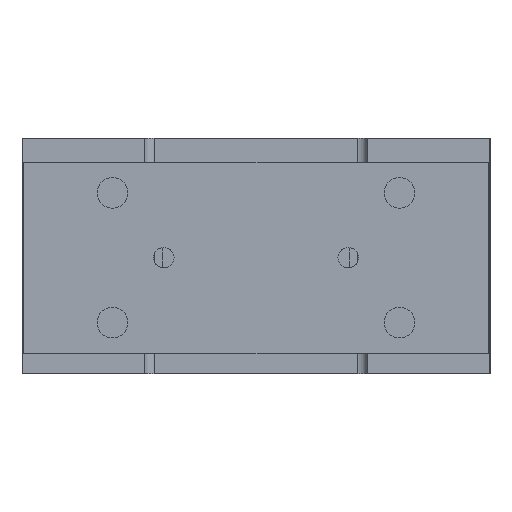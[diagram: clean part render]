
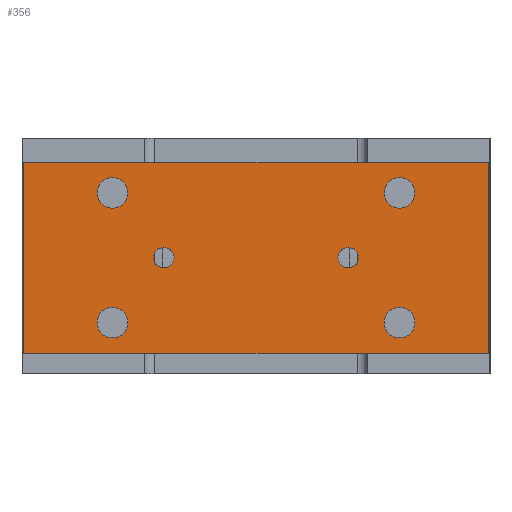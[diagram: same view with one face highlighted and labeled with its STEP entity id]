
A CAD part, left-side view. The second image highlights one B-rep face of the part: STEP entity #356.
In plain terms, the highlighted planar face has unit normal (-1, 0, 0).
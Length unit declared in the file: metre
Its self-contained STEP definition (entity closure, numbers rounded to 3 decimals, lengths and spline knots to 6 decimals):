
#356 = ADVANCED_FACE( '', ( #909, #910, #911, #912, #913, #914, #915 ), #916, .T. );
#909 = FACE_BOUND( '', #1765, .T. );
#910 = FACE_BOUND( '', #1766, .T. );
#911 = FACE_BOUND( '', #1767, .T. );
#912 = FACE_BOUND( '', #1768, .T. );
#913 = FACE_BOUND( '', #1769, .T. );
#914 = FACE_BOUND( '', #1770, .T. );
#915 = FACE_OUTER_BOUND( '', #1771, .T. );
#916 = PLANE( '', #1772 );
#1765 = EDGE_LOOP( '', ( #2773 ) );
#1766 = EDGE_LOOP( '', ( #2774 ) );
#1767 = EDGE_LOOP( '', ( #2775 ) );
#1768 = EDGE_LOOP( '', ( #2776 ) );
#1769 = EDGE_LOOP( '', ( #2777 ) );
#1770 = EDGE_LOOP( '', ( #2778 ) );
#1771 = EDGE_LOOP( '', ( #2779, #2780, #2781, #2782 ) );
#1772 = AXIS2_PLACEMENT_3D( '', #2783, #2784, #2785 );
#2773 = ORIENTED_EDGE( '', *, *, #4235, .F. );
#2774 = ORIENTED_EDGE( '', *, *, #4236, .F. );
#2775 = ORIENTED_EDGE( '', *, *, #4232, .F. );
#2776 = ORIENTED_EDGE( '', *, *, #4237, .F. );
#2777 = ORIENTED_EDGE( '', *, *, #4238, .F. );
#2778 = ORIENTED_EDGE( '', *, *, #4239, .T. );
#2779 = ORIENTED_EDGE( '', *, *, #4240, .T. );
#2780 = ORIENTED_EDGE( '', *, *, #4241, .T. );
#2781 = ORIENTED_EDGE( '', *, *, #4052, .T. );
#2782 = ORIENTED_EDGE( '', *, *, #4242, .T. );
#2783 = CARTESIAN_POINT( '', ( -0.1025, -0.068, -0.007 ) );
#2784 = DIRECTION( '', ( -1., 0., 0. ) );
#2785 = DIRECTION( '', ( 0., 0., 1. ) );
#4052 = EDGE_CURVE( '', #4650, #4648, #4651, .T. );
#4232 = EDGE_CURVE( '', #4954, #4954, #4955, .T. );
#4235 = EDGE_CURVE( '', #4959, #4959, #4960, .T. );
#4236 = EDGE_CURVE( '', #4961, #4961, #4962, .T. );
#4237 = EDGE_CURVE( '', #4963, #4963, #4964, .T. );
#4238 = EDGE_CURVE( '', #4965, #4965, #4966, .T. );
#4239 = EDGE_CURVE( '', #4967, #4967, #4968, .T. );
#4240 = EDGE_CURVE( '', #4969, #4970, #4971, .T. );
#4241 = EDGE_CURVE( '', #4970, #4650, #4972, .T. );
#4242 = EDGE_CURVE( '', #4648, #4969, #4973, .T. );
#4648 = VERTEX_POINT( '', #5526 );
#4650 = VERTEX_POINT( '', #5529 );
#4651 = LINE( '', #5530, #5531 );
#4954 = VERTEX_POINT( '', #5968 );
#4955 = CIRCLE( '', #5969, 0.0045 );
#4959 = VERTEX_POINT( '', #5973 );
#4960 = CIRCLE( '', #5974, 0.0045 );
#4961 = VERTEX_POINT( '', #5975 );
#4962 = CIRCLE( '', #5976, 0.0045 );
#4963 = VERTEX_POINT( '', #5977 );
#4964 = CIRCLE( '', #5978, 0.0045 );
#4965 = VERTEX_POINT( '', #5979 );
#4966 = CIRCLE( '', #5980, 0.003 );
#4967 = VERTEX_POINT( '', #5981 );
#4968 = CIRCLE( '', #5982, 0.003 );
#4969 = VERTEX_POINT( '', #5983 );
#4970 = VERTEX_POINT( '', #5984 );
#4971 = LINE( '', #5985, #5986 );
#4972 = LINE( '', #5987, #5988 );
#4973 = LINE( '', #5989, #5990 );
#5526 = CARTESIAN_POINT( '', ( -0.1025, 0.068, -0.063 ) );
#5529 = CARTESIAN_POINT( '', ( -0.1025, 0.068, -0.007 ) );
#5530 = CARTESIAN_POINT( '', ( -0.1025, 0.068, -0.007 ) );
#5531 = VECTOR( '', #6853, 1. );
#5968 = CARTESIAN_POINT( '', ( -0.1025, -0.0465, -0.016 ) );
#5969 = AXIS2_PLACEMENT_3D( '', #7102, #7103, #7104 );
#5973 = CARTESIAN_POINT( '', ( -0.1025, -0.0465, -0.054 ) );
#5974 = AXIS2_PLACEMENT_3D( '', #7108, #7109, #7110 );
#5975 = CARTESIAN_POINT( '', ( -0.1025, 0.0375, -0.054 ) );
#5976 = AXIS2_PLACEMENT_3D( '', #7111, #7112, #7113 );
#5977 = CARTESIAN_POINT( '', ( -0.1025, 0.0375, -0.016 ) );
#5978 = AXIS2_PLACEMENT_3D( '', #7114, #7115, #7116 );
#5979 = CARTESIAN_POINT( '', ( -0.1025, -0.024, -0.035 ) );
#5980 = AXIS2_PLACEMENT_3D( '', #7117, #7118, #7119 );
#5981 = CARTESIAN_POINT( '', ( -0.1025, 0.024, -0.035 ) );
#5982 = AXIS2_PLACEMENT_3D( '', #7120, #7121, #7122 );
#5983 = CARTESIAN_POINT( '', ( -0.1025, -0.068, -0.063 ) );
#5984 = CARTESIAN_POINT( '', ( -0.1025, -0.068, -0.007 ) );
#5985 = CARTESIAN_POINT( '', ( -0.1025, -0.068, -0.063 ) );
#5986 = VECTOR( '', #7123, 1. );
#5987 = CARTESIAN_POINT( '', ( -0.1025, -0.068, -0.007 ) );
#5988 = VECTOR( '', #7124, 1. );
#5989 = CARTESIAN_POINT( '', ( -0.1025, 0.068, -0.063 ) );
#5990 = VECTOR( '', #7125, 1. );
#6853 = DIRECTION( '', ( 0., 0., -1. ) );
#7102 = CARTESIAN_POINT( '', ( -0.1025, -0.042, -0.016 ) );
#7103 = DIRECTION( '', ( -1., 0., 0. ) );
#7104 = DIRECTION( '', ( 0., -1., 0. ) );
#7108 = CARTESIAN_POINT( '', ( -0.1025, -0.042, -0.054 ) );
#7109 = DIRECTION( '', ( -1., 0., 0. ) );
#7110 = DIRECTION( '', ( 0., -1., 0. ) );
#7111 = CARTESIAN_POINT( '', ( -0.1025, 0.042, -0.054 ) );
#7112 = DIRECTION( '', ( -1., 0., 0. ) );
#7113 = DIRECTION( '', ( 0., -1., 0. ) );
#7114 = CARTESIAN_POINT( '', ( -0.1025, 0.042, -0.016 ) );
#7115 = DIRECTION( '', ( -1., 0., 0. ) );
#7116 = DIRECTION( '', ( 0., -1., 0. ) );
#7117 = CARTESIAN_POINT( '', ( -0.1025, -0.027, -0.035 ) );
#7118 = DIRECTION( '', ( -1., 0., 0. ) );
#7119 = DIRECTION( '', ( 0., 1., 0. ) );
#7120 = CARTESIAN_POINT( '', ( -0.1025, 0.027, -0.035 ) );
#7121 = DIRECTION( '', ( 1., 0., 0. ) );
#7122 = DIRECTION( '', ( 0., -1., 0. ) );
#7123 = DIRECTION( '', ( 0., 0., 1. ) );
#7124 = DIRECTION( '', ( 0., 1., 0. ) );
#7125 = DIRECTION( '', ( 0., -1., 0. ) );
